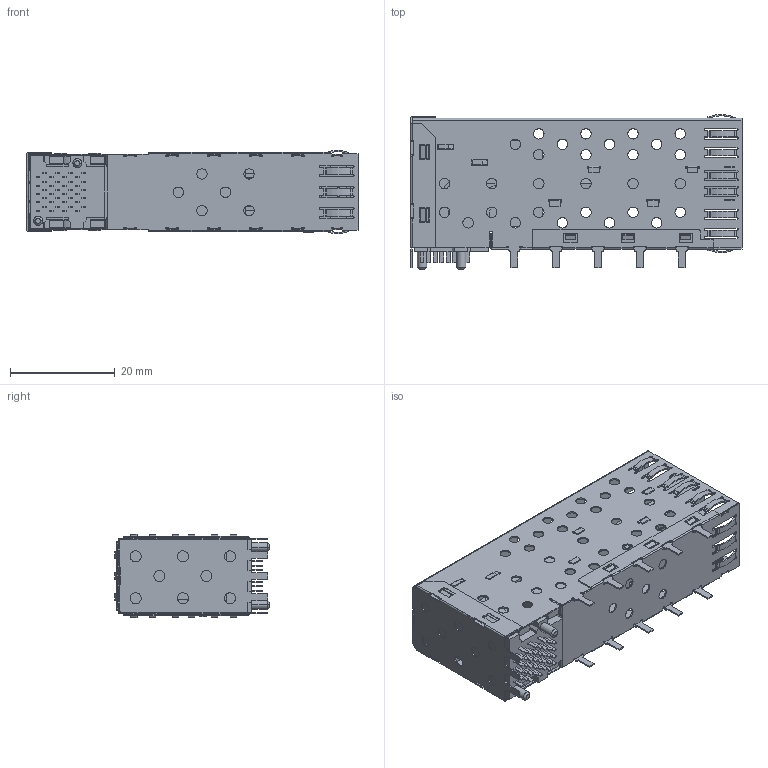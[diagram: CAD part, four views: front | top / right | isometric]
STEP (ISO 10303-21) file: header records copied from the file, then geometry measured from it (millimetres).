
FILE_DESCRIPTION((''),'2;1');
FILE_NAME('PRT0002','2018-08-01T',('Administrator'),(''),'PRO/ENGINEER BY PARAMETRIC TECHNOLOGY CORPORATION, 2009440','PRO/ENGINEER BY PARAMETRIC TECHNOLOGY CORPORATION, 2009440','');
FILE_SCHEMA(('CONFIG_CONTROL_DESIGN'));
Products named in the file (1): PRT0002
Bounding box: 63.4 x 29.6 x 15.9 mm (x, y, z)
Volume: 7762.9 mm3; surface area: 22489.7 mm2
Topology: 1 solids, 11 shells, 5589 faces, 15972 edges, 10186 vertices
Faces by surface type: plane 3953, cylinder 1628, sphere 4, cone 4
Entity records: 182081 total; most frequent: CARTESIAN_POINT 33510, ORIENTED_EDGE 31936, DIRECTION 29749, EDGE_CURVE 15968, VECTOR 12435, LINE 12435, VERTEX_POINT 10186, AXIS2_PLACEMENT_3D 8657
